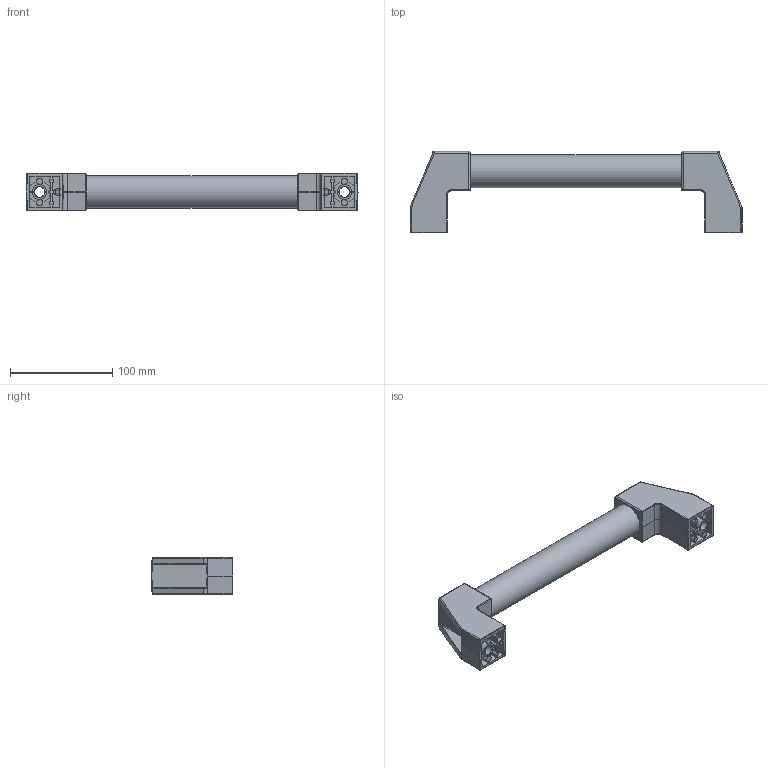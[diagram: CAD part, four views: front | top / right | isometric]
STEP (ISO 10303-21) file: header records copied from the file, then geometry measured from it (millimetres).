
FILE_DESCRIPTION (( 'STEP AP203' ), '1' );
FILE_NAME ('AP-737 ㄇ型鋁合金圓柱把手.stp', '2022-05-04T04:38:29', ( '' ), ( '' ), 'SwSTEP 2.0', 'SolidWorks 2020', '' );
FILE_SCHEMA (( 'CONFIG_CONTROL_DESIGN' ));
Length unit declared in the file: millimetre
Products named in the file (1): AP-737 ㄇ型鋁合金圓柱把手
Bounding box: 324.2 x 79.8 x 36.75 mm (x, y, z)
Volume: 160247 mm3; surface area: 91838.6 mm2
Topology: 1 solids, 4 shells, 332 faces, 822 edges, 492 vertices
Faces by surface type: plane 128, cylinder 122, torus 24, bspline 24, cone 18, sphere 16
Full cylindrical faces by diameter (mm): 4.1 x2, 10 x2, 18 x2, 29.9 x1, 31.4 x2, 31.9 x1
Entity records: 11929 total; most frequent: CARTESIAN_POINT 4311, DIRECTION 1578, ORIENTED_EDGE 1556, EDGE_CURVE 778, AXIS2_PLACEMENT_3D 583, VERTEX_POINT 484, LINE 412, VECTOR 412
